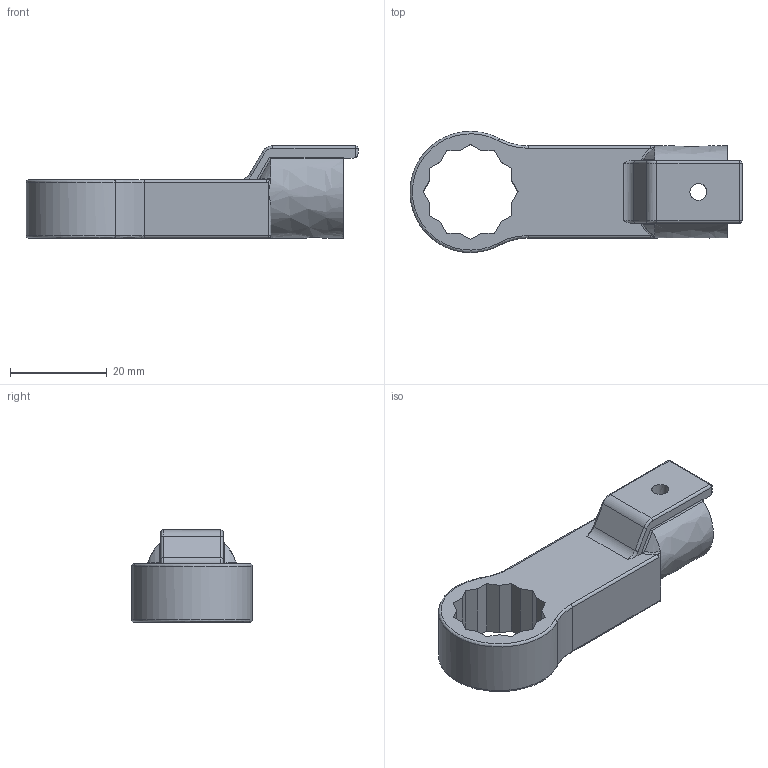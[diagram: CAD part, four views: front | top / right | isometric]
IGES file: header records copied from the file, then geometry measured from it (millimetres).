
Global section: file name: RH12DX17; native system: Autodesk Inventor 2016; preprocessor: unknown; author: Q532; date: 20151110.160619; units: millimetre
Bounding box: 68.5 x 25 x 19 mm (x, y, z)
Volume: 11795.9 mm3; surface area: 5573.5 mm2
Topology: 1 solids, 1 shells, 91 faces, 245 edges, 152 vertices
Faces by surface type: bspline 91
